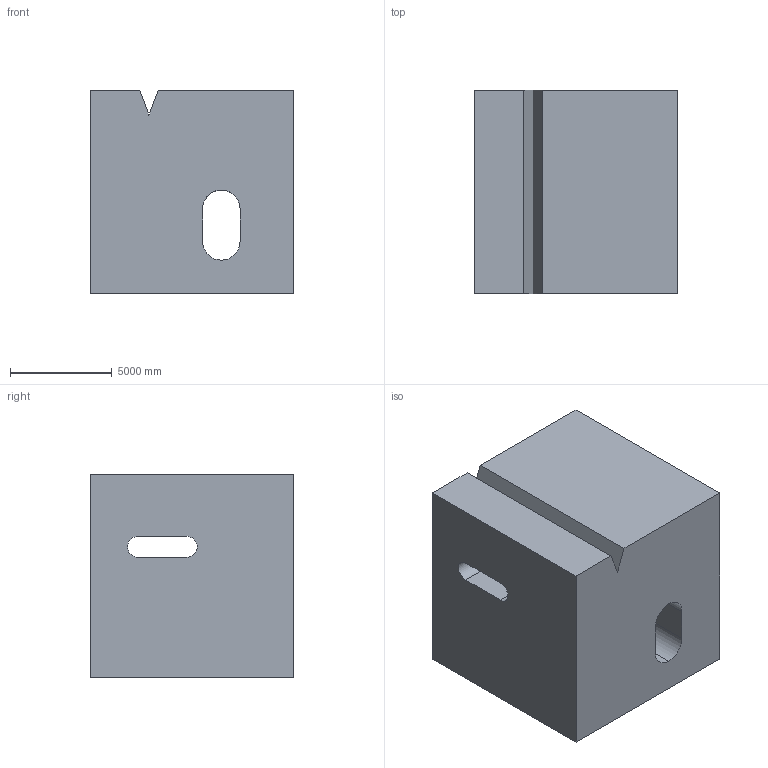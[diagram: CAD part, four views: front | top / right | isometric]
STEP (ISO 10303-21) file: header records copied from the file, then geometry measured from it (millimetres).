
FILE_DESCRIPTION (( 'STEP AP203' ), '1' );
FILE_NAME ('1499.STEP', '2022-08-18T14:51:13', ( 'user' ), ( '' ), 'SwSTEP 2.0', 'SolidWorks 2021', '' );
FILE_SCHEMA (( 'CONFIG_CONTROL_DESIGN' ));
Length unit declared in the file: centimetre
Products named in the file (1): 1499
Bounding box: 10000 x 10000 x 10000 mm (x, y, z)
Volume: 856046353287.2 mm3; surface area: 816423807.2 mm2
Topology: 1 solids, 1 shells, 32 faces, 96 edges, 64 vertices
Faces by surface type: plane 20, cylinder 12
Entity records: 1592 total; most frequent: CARTESIAN_POINT 619, ORIENTED_EDGE 192, DIRECTION 183, EDGE_CURVE 96, VECTOR 67, LINE 67, VERTEX_POINT 64, AXIS2_PLACEMENT_3D 58
